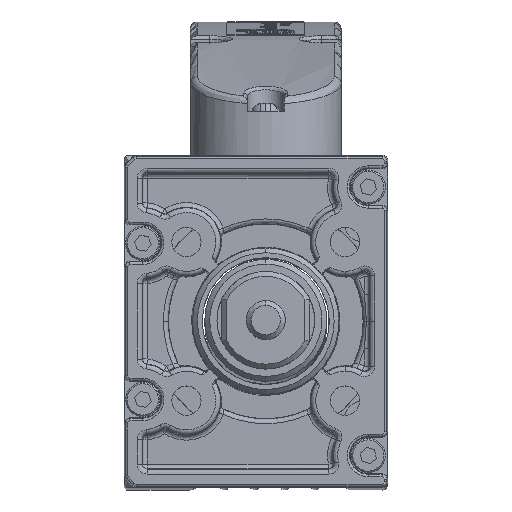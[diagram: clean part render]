
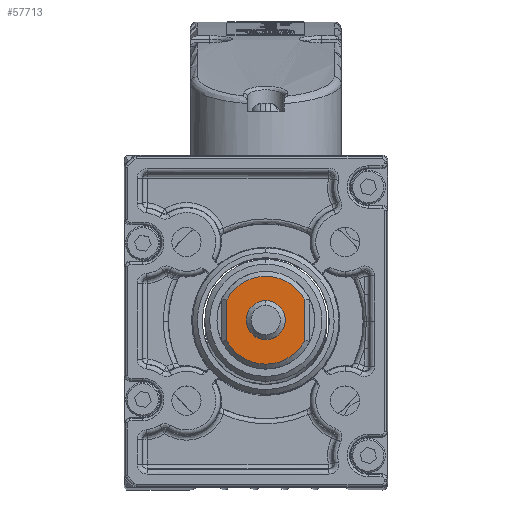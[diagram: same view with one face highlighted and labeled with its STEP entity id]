
A CAD part, top view. The second image highlights one B-rep face of the part: STEP entity #57713.
In plain terms, the highlighted planar face has unit normal (0, 0, 1) as drawn and (0, 0, -1) by its records, which use the part's own axes.
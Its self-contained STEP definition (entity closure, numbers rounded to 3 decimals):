
#2038 = AXIS2_PLACEMENT_3D ( 'NONE', #50166, #50183, #50185 ) ;
#3432 = AXIS2_PLACEMENT_3D ( 'NONE', #19224, #19225, #19226 ) ;
#3434 = CIRCLE ( 'NONE', #3432, 4. ) ;
#3435 = AXIS2_PLACEMENT_3D ( 'NONE', #19220, #19221, #19222 ) ;
#3436 = VECTOR ( 'NONE', #19223, 1000. ) ;
#3437 = CIRCLE ( 'NONE', #3435, 9. ) ;
#3438 = AXIS2_PLACEMENT_3D ( 'NONE', #19216, #19217, #19218 ) ;
#3439 = VECTOR ( 'NONE', #19219, 1000. ) ;
#3440 = CIRCLE ( 'NONE', #3438, 9. ) ;
#3525 = AXIS2_PLACEMENT_3D ( 'NONE', #19064, #19065, #19066 ) ;
#3527 = CIRCLE ( 'NONE', #3525, 4. ) ;
#3549 = AXIS2_PLACEMENT_3D ( 'NONE', #19012, #19013, #19014 ) ;
#3552 = CIRCLE ( 'NONE', #3549, 9. ) ;
#4664 = EDGE_LOOP ( 'NONE', ( #74639, #74640, #74641, #74642, #74643 ) ) ;
#4674 = EDGE_LOOP ( 'NONE', ( #74644, #74645 ) ) ;
#5419 = VERTEX_POINT ( 'NONE', #66089 ) ;
#5437 = VERTEX_POINT ( 'NONE', #66107 ) ;
#5496 = VERTEX_POINT ( 'NONE', #66165 ) ;
#5500 = VERTEX_POINT ( 'NONE', #66169 ) ;
#5506 = VERTEX_POINT ( 'NONE', #66175 ) ;
#5512 = VERTEX_POINT ( 'NONE', #66181 ) ;
#5515 = VERTEX_POINT ( 'NONE', #66184 ) ;
#19012 = CARTESIAN_POINT ( 'NONE',  ( 0., 0., -546. ) ) ;
#19013 = DIRECTION ( 'NONE',  ( 0., 0., -1. ) ) ;
#19014 = DIRECTION ( 'NONE',  ( -1., 0., 0. ) ) ;
#19064 = CARTESIAN_POINT ( 'NONE',  ( 0., 0., -546. ) ) ;
#19065 = DIRECTION ( 'NONE',  ( 0., 0., 1. ) ) ;
#19066 = DIRECTION ( 'NONE',  ( 1., 0., 0. ) ) ;
#19207 = LINE ( 'NONE', #19208, #3439 ) ;
#19208 = CARTESIAN_POINT ( 'NONE',  ( 4.359, 8., -546. ) ) ;
#19214 = LINE ( 'NONE', #19215, #3436 ) ;
#19215 = CARTESIAN_POINT ( 'NONE',  ( -4.359, -8., -546. ) ) ;
#19216 = CARTESIAN_POINT ( 'NONE',  ( 0., 0., -546. ) ) ;
#19217 = DIRECTION ( 'NONE',  ( 0., 0., -1. ) ) ;
#19218 = DIRECTION ( 'NONE',  ( -1., 0., 0. ) ) ;
#19219 = DIRECTION ( 'NONE',  ( 1., 0., 0. ) ) ;
#19220 = CARTESIAN_POINT ( 'NONE',  ( 0., 0., -546. ) ) ;
#19221 = DIRECTION ( 'NONE',  ( 0., 0., -1. ) ) ;
#19222 = DIRECTION ( 'NONE',  ( -1., 0., 0. ) ) ;
#19223 = DIRECTION ( 'NONE',  ( -1., 0., 0. ) ) ;
#19224 = CARTESIAN_POINT ( 'NONE',  ( 0., 0., -546. ) ) ;
#19225 = DIRECTION ( 'NONE',  ( 0., 0., 1. ) ) ;
#19226 = DIRECTION ( 'NONE',  ( 1., 0., 0. ) ) ;
#39751 = EDGE_CURVE ( 'NONE', #5515, #5512, #3552, .T. ) ;
#39768 = EDGE_CURVE ( 'NONE', #5496, #5419, #3527, .T. ) ;
#39818 = EDGE_CURVE ( 'NONE', #5500, #5506, #3440, .T. ) ;
#39819 = EDGE_CURVE ( 'NONE', #5506, #5437, #19207, .T. ) ;
#39820 = EDGE_CURVE ( 'NONE', #5437, #5515, #3437, .T. ) ;
#39821 = EDGE_CURVE ( 'NONE', #5512, #5500, #19214, .T. ) ;
#39822 = EDGE_CURVE ( 'NONE', #5419, #5496, #3434, .T. ) ;
#50166 = CARTESIAN_POINT ( 'NONE',  ( 10., 0., -546. ) ) ;
#50174 = FACE_OUTER_BOUND ( 'NONE', #4664, .T. ) ;
#50177 = FACE_BOUND ( 'NONE', #4674, .T. ) ;
#50179 = PLANE ( 'NONE',  #2038 ) ;
#50183 = DIRECTION ( 'NONE',  ( 0., 0., -1. ) ) ;
#50185 = DIRECTION ( 'NONE',  ( -1., 0., 0. ) ) ;
#57713 = ADVANCED_FACE ( 'NONE', ( #50174, #50177 ), #50179, .T. ) ;
#66089 = CARTESIAN_POINT ( 'NONE',  ( -4., 0., -546. ) ) ;
#66107 = CARTESIAN_POINT ( 'NONE',  ( 4.123, 8., -546. ) ) ;
#66165 = CARTESIAN_POINT ( 'NONE',  ( 4., 0., -546. ) ) ;
#66169 = CARTESIAN_POINT ( 'NONE',  ( -4.123, -8., -546. ) ) ;
#66175 = CARTESIAN_POINT ( 'NONE',  ( -4.123, 8., -546. ) ) ;
#66181 = CARTESIAN_POINT ( 'NONE',  ( 4.123, -8., -546. ) ) ;
#66184 = CARTESIAN_POINT ( 'NONE',  ( 9., 0., -546. ) ) ;
#74639 = ORIENTED_EDGE ( 'NONE', *, *, #39818, .T. ) ;
#74640 = ORIENTED_EDGE ( 'NONE', *, *, #39819, .T. ) ;
#74641 = ORIENTED_EDGE ( 'NONE', *, *, #39820, .T. ) ;
#74642 = ORIENTED_EDGE ( 'NONE', *, *, #39751, .T. ) ;
#74643 = ORIENTED_EDGE ( 'NONE', *, *, #39821, .T. ) ;
#74644 = ORIENTED_EDGE ( 'NONE', *, *, #39768, .T. ) ;
#74645 = ORIENTED_EDGE ( 'NONE', *, *, #39822, .T. ) ;
